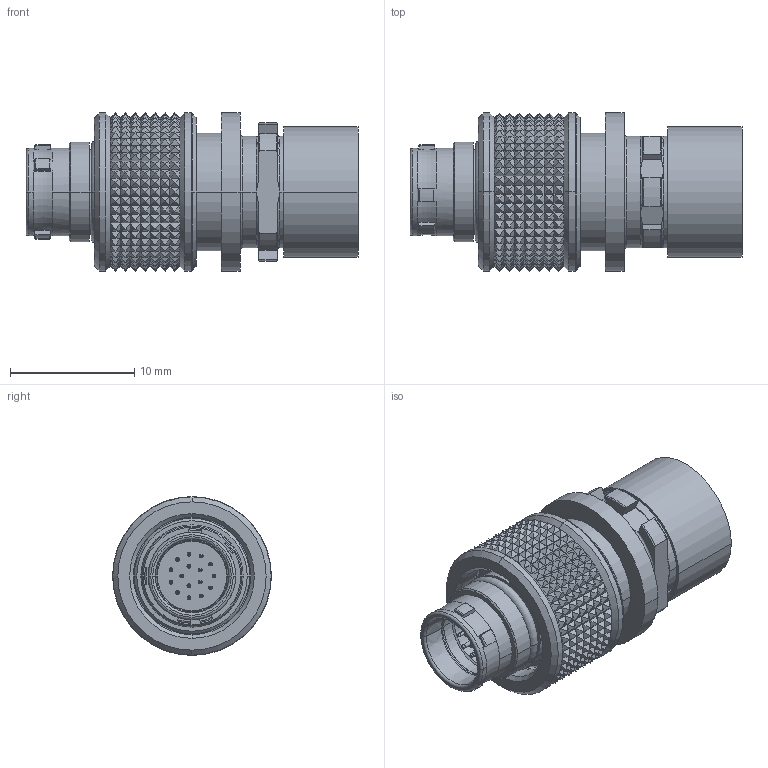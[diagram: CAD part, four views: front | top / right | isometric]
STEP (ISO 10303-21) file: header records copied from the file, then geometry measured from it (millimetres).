
FILE_DESCRIPTION((''),'2;1');
FILE_NAME('00160599--','2019-07-31T',('DTurza'),(''),'PRO/ENGINEER BY PARAMETRIC TECHNOLOGY CORPORATION, 2016360','PRO/ENGINEER BY PARAMETRIC TECHNOLOGY CORPORATION, 2016360','');
FILE_SCHEMA(('AUTOMOTIVE_DESIGN { 1 0 10303 214 1 1 1 1 }'));
Products named in the file (1): 00160599--
Bounding box: 26.75 x 12.8 x 12.8 mm (x, y, z)
Volume: 1319.6 mm3; surface area: 3144 mm2
Topology: 2 solids, 3 shells, 1981 faces, 3988 edges, 1997 vertices
Faces by surface type: plane 834, cone 812, cylinder 200, torus 71, bspline 32, sphere 32
Entity records: 68730 total; most frequent: CARTESIAN_POINT 16855, ORIENTED_EDGE 7848, DIRECTION 7718, EDGE_CURVE 3924, AXIS2_PLACEMENT_3D 3430, EDGE_LOOP 2033, VERTEX_POINT 1997, FACE_OUTER_BOUND 1981
